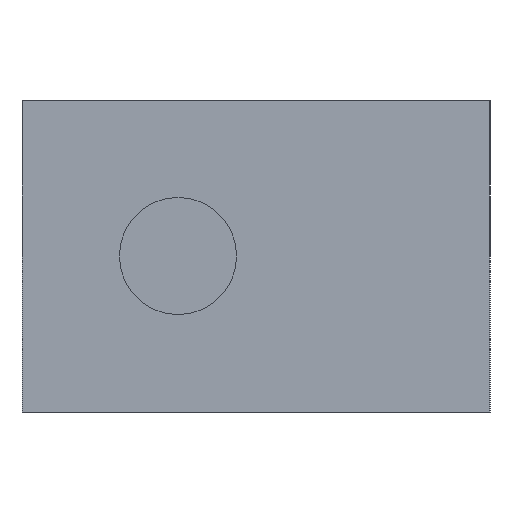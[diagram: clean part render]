
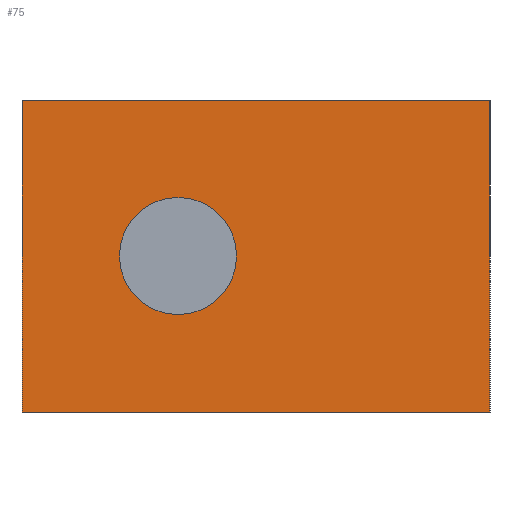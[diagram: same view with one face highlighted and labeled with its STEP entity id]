
A CAD part, left-side view. The second image highlights one B-rep face of the part: STEP entity #75.
In plain terms, the highlighted planar face has unit normal (-1, 0, 0).
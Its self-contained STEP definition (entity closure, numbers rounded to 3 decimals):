
#75 = ADVANCED_FACE( '', ( #89, #90 ), #91, .F. );
#89 = FACE_OUTER_BOUND( '', #126, .T. );
#90 = FACE_BOUND( '', #127, .T. );
#91 = PLANE( '', #128 );
#126 = EDGE_LOOP( '', ( #163, #164, #165, #166 ) );
#127 = EDGE_LOOP( '', ( #167 ) );
#128 = AXIS2_PLACEMENT_3D( '', #168, #169, #170 );
#163 = ORIENTED_EDGE( '', *, *, #244, .T. );
#164 = ORIENTED_EDGE( '', *, *, #245, .F. );
#165 = ORIENTED_EDGE( '', *, *, #246, .F. );
#166 = ORIENTED_EDGE( '', *, *, #247, .T. );
#167 = ORIENTED_EDGE( '', *, *, #248, .F. );
#168 = CARTESIAN_POINT( '', ( -20., 4., 4. ) );
#169 = DIRECTION( '', ( 1., 0., 0. ) );
#170 = DIRECTION( '', ( 0., 0., -1. ) );
#244 = EDGE_CURVE( '', #265, #266, #267, .T. );
#245 = EDGE_CURVE( '', #268, #266, #269, .T. );
#246 = EDGE_CURVE( '', #270, #268, #271, .T. );
#247 = EDGE_CURVE( '', #270, #265, #272, .T. );
#248 = EDGE_CURVE( '', #273, #273, #274, .F. );
#265 = VERTEX_POINT( '', #303 );
#266 = VERTEX_POINT( '', #304 );
#267 = LINE( '', #305, #306 );
#268 = VERTEX_POINT( '', #307 );
#269 = LINE( '', #308, #309 );
#270 = VERTEX_POINT( '', #310 );
#271 = LINE( '', #311, #312 );
#272 = LINE( '', #313, #314 );
#273 = VERTEX_POINT( '', #315 );
#274 = CIRCLE( '', #316, 1.5 );
#303 = CARTESIAN_POINT( '', ( -20., 4., -4. ) );
#304 = CARTESIAN_POINT( '', ( -20., -8., -4. ) );
#305 = CARTESIAN_POINT( '', ( -20., 4., -4. ) );
#306 = VECTOR( '', #353, 1000. );
#307 = CARTESIAN_POINT( '', ( -20., -8., 4. ) );
#308 = CARTESIAN_POINT( '', ( -20., -8., 4. ) );
#309 = VECTOR( '', #354, 1000. );
#310 = CARTESIAN_POINT( '', ( -20., 4., 4. ) );
#311 = CARTESIAN_POINT( '', ( -20., 4., 4. ) );
#312 = VECTOR( '', #355, 1000. );
#313 = CARTESIAN_POINT( '', ( -20., 4., 4. ) );
#314 = VECTOR( '', #356, 1000. );
#315 = CARTESIAN_POINT( '', ( -20., 0., -1.5 ) );
#316 = AXIS2_PLACEMENT_3D( '', #357, #358, #359 );
#353 = DIRECTION( '', ( 0., -1., 0. ) );
#354 = DIRECTION( '', ( 0., 0., -1. ) );
#355 = DIRECTION( '', ( 0., -1., 0. ) );
#356 = DIRECTION( '', ( 0., 0., -1. ) );
#357 = CARTESIAN_POINT( '', ( -20., 0., 0. ) );
#358 = DIRECTION( '', ( 1., 0., 0. ) );
#359 = DIRECTION( '', ( 0., 0., -1. ) );
